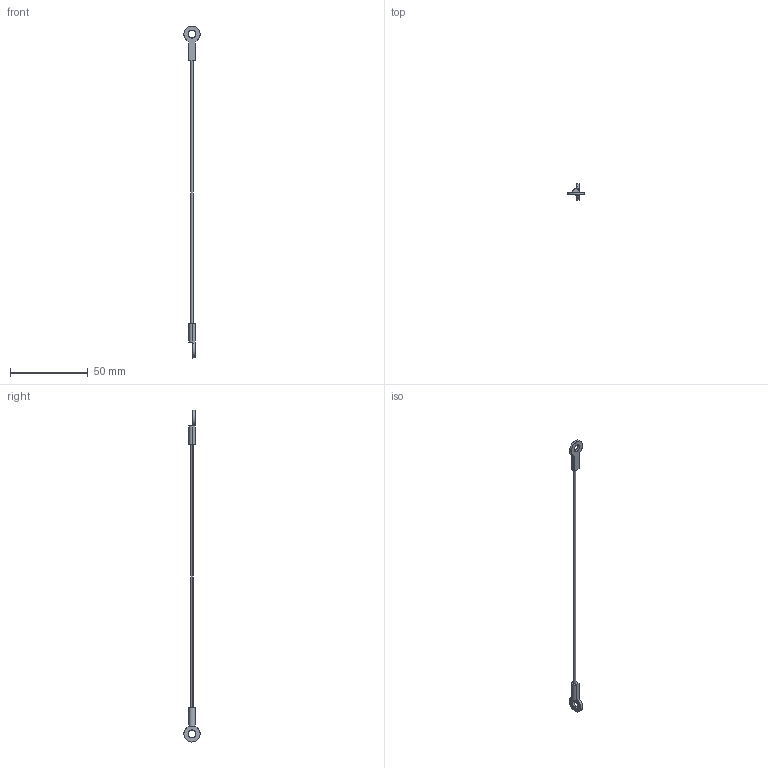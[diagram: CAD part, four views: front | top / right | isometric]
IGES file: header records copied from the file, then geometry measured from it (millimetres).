
Start section: SolidWorks IGES file using analytic representation for surfaces
Global section: file name: C:\Users\ianosborn\Desktop\LA1070_v2\LA1070_v2_20260323_IGES\LA1070.I06-203C1.igs; native system: SolidWorks 2019; preprocessor: SolidWorks 2019; author: IanOsborn; date: 260323.144957; units: millimetre
Bounding box: 10.4 x 10.4 x 213.61 mm (x, y, z)
Surface area: 1622.8 mm2 (no closed solid volume)
Topology: 0 solids, 0 shells, 27 faces, 460 edges, 460 vertices
Faces by surface type: bspline 16, revolution 11
